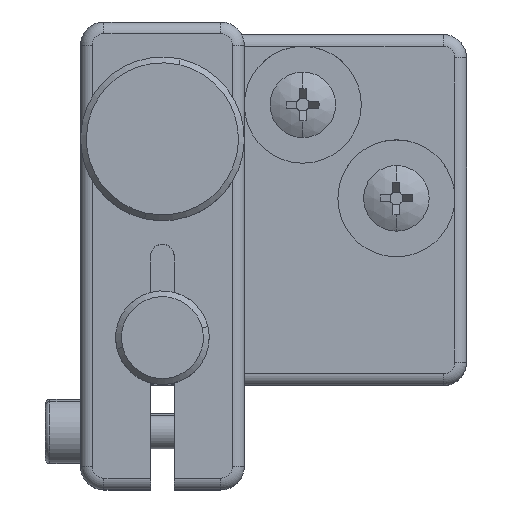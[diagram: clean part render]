
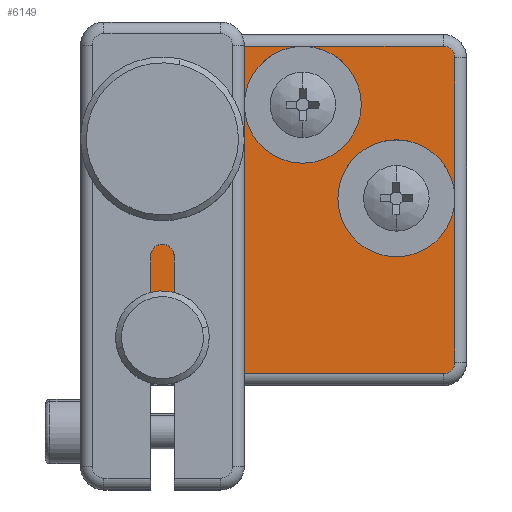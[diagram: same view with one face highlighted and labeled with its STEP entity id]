
A CAD part, top view. The second image highlights one B-rep face of the part: STEP entity #6149.
In plain terms, the highlighted planar face has unit normal (0, 0, 1).
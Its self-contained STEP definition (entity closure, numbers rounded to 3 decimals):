
#11 = AXIS2_PLACEMENT_3D ( 'NONE', #2962, #6996, #5077 ) ;
#76 = CARTESIAN_POINT ( 'NONE',  ( -12.65, -11., 8. ) ) ;
#134 = CARTESIAN_POINT ( 'NONE',  ( 9., 1., 8. ) ) ;
#154 = AXIS2_PLACEMENT_3D ( 'NONE', #6056, #8200, #2603 ) ;
#162 = DIRECTION ( 'NONE',  ( -1., 0., 0. ) ) ;
#251 = CARTESIAN_POINT ( 'NONE',  ( -13., -14., 8. ) ) ;
#280 = AXIS2_PLACEMENT_3D ( 'NONE', #2338, #5007, #8112 ) ;
#339 = CARTESIAN_POINT ( 'NONE',  ( 14., -13., 8. ) ) ;
#519 = CARTESIAN_POINT ( 'NONE',  ( 13., -14., 8. ) ) ;
#543 = AXIS2_PLACEMENT_3D ( 'NONE', #1176, #4559, #5262 ) ;
#546 = EDGE_CURVE ( 'NONE', #5294, #8599, #3349, .T. ) ;
#547 = EDGE_CURVE ( 'NONE', #5498, #4800, #6237, .T. ) ;
#658 = CARTESIAN_POINT ( 'NONE',  ( 1., 9., 8. ) ) ;
#737 = VERTEX_POINT ( 'NONE', #7061 ) ;
#748 = DIRECTION ( 'NONE',  ( 1., 0., 0. ) ) ;
#856 = ORIENTED_EDGE ( 'NONE', *, *, #5304, .T. ) ;
#857 = AXIS2_PLACEMENT_3D ( 'NONE', #2738, #7220, #6018 ) ;
#923 = ORIENTED_EDGE ( 'NONE', *, *, #547, .F. ) ;
#996 = CARTESIAN_POINT ( 'NONE',  ( -4., 9., 8. ) ) ;
#1015 = LINE ( 'NONE', #8382, #1082 ) ;
#1036 = ORIENTED_EDGE ( 'NONE', *, *, #7704, .F. ) ;
#1053 = ORIENTED_EDGE ( 'NONE', *, *, #8220, .T. ) ;
#1082 = VECTOR ( 'NONE', #6226, 1000. ) ;
#1172 = ORIENTED_EDGE ( 'NONE', *, *, #6851, .T. ) ;
#1176 = CARTESIAN_POINT ( 'NONE',  ( 13., 13., 8. ) ) ;
#1201 = CARTESIAN_POINT ( 'NONE',  ( -13., -13., 8. ) ) ;
#1227 = LINE ( 'NONE', #1705, #6841 ) ;
#1466 = CARTESIAN_POINT ( 'NONE',  ( 1., 14., 8. ) ) ;
#1604 = CIRCLE ( 'NONE', #5026, 5. ) ;
#1675 = VERTEX_POINT ( 'NONE', #3652 ) ;
#1677 = VERTEX_POINT ( 'NONE', #1915 ) ;
#1688 = CIRCLE ( 'NONE', #154, 1.65 ) ;
#1705 = CARTESIAN_POINT ( 'NONE',  ( 0., 14., 8. ) ) ;
#1780 = VERTEX_POINT ( 'NONE', #519 ) ;
#1825 = VERTEX_POINT ( 'NONE', #6428 ) ;
#1915 = CARTESIAN_POINT ( 'NONE',  ( 6., 9., 8. ) ) ;
#1919 = VECTOR ( 'NONE', #6157, 1000. ) ;
#1967 = CIRCLE ( 'NONE', #6876, 1. ) ;
#2193 = CIRCLE ( 'NONE', #857, 1.65 ) ;
#2200 = DIRECTION ( 'NONE',  ( 1., 0., 0. ) ) ;
#2338 = CARTESIAN_POINT ( 'NONE',  ( 1., 9., 8. ) ) ;
#2474 = CARTESIAN_POINT ( 'NONE',  ( 14., 1., 8. ) ) ;
#2569 = VERTEX_POINT ( 'NONE', #3186 ) ;
#2573 = CARTESIAN_POINT ( 'NONE',  ( 0., -14., 8. ) ) ;
#2603 = DIRECTION ( 'NONE',  ( 1., 0., 0. ) ) ;
#2677 = AXIS2_PLACEMENT_3D ( 'NONE', #7806, #5643, #4535 ) ;
#2681 = CARTESIAN_POINT ( 'NONE',  ( 1., 9., 8. ) ) ;
#2712 = VERTEX_POINT ( 'NONE', #4735 ) ;
#2725 = FACE_OUTER_BOUND ( 'NONE', #4540, .T. ) ;
#2738 = CARTESIAN_POINT ( 'NONE',  ( -11., -11., 8. ) ) ;
#2962 = CARTESIAN_POINT ( 'NONE',  ( 13., -13., 8. ) ) ;
#3009 = DIRECTION ( 'NONE',  ( 0., 0., 1. ) ) ;
#3031 = DIRECTION ( 'NONE',  ( -1., 0., 0. ) ) ;
#3056 = EDGE_CURVE ( 'NONE', #5294, #1675, #6805, .T. ) ;
#3157 = VERTEX_POINT ( 'NONE', #339 ) ;
#3186 = CARTESIAN_POINT ( 'NONE',  ( -9.35, -11., 8. ) ) ;
#3198 = CARTESIAN_POINT ( 'NONE',  ( 14., 13., 8. ) ) ;
#3276 = DIRECTION ( 'NONE',  ( 0., 0., 1. ) ) ;
#3282 = EDGE_CURVE ( 'NONE', #1780, #3157, #5922, .T. ) ;
#3289 = DIRECTION ( 'NONE',  ( 1., 0., 0. ) ) ;
#3349 = CIRCLE ( 'NONE', #280, 5. ) ;
#3425 = CARTESIAN_POINT ( 'NONE',  ( -14., 0., 8. ) ) ;
#3652 = CARTESIAN_POINT ( 'NONE',  ( -13., 14., 8. ) ) ;
#3848 = ORIENTED_EDGE ( 'NONE', *, *, #6816, .F. ) ;
#3852 = ORIENTED_EDGE ( 'NONE', *, *, #4927, .T. ) ;
#3896 = ORIENTED_EDGE ( 'NONE', *, *, #5437, .F. ) ;
#3927 = VECTOR ( 'NONE', #7286, 1000. ) ;
#3957 = ORIENTED_EDGE ( 'NONE', *, *, #7739, .F. ) ;
#4021 = ORIENTED_EDGE ( 'NONE', *, *, #3056, .T. ) ;
#4089 = EDGE_CURVE ( 'NONE', #1825, #5294, #1227, .T. ) ;
#4189 = AXIS2_PLACEMENT_3D ( 'NONE', #2681, #8515, #3289 ) ;
#4279 = LINE ( 'NONE', #2573, #7289 ) ;
#4425 = ORIENTED_EDGE ( 'NONE', *, *, #4089, .T. ) ;
#4494 = CIRCLE ( 'NONE', #6457, 5. ) ;
#4535 = DIRECTION ( 'NONE',  ( -1., 0., 0. ) ) ;
#4540 = EDGE_LOOP ( 'NONE', ( #6770, #8009, #6947, #1053, #6935, #923, #3852, #1172, #4425, #1036, #3896, #6905, #4021, #856, #6653 ) ) ;
#4542 = EDGE_CURVE ( 'NONE', #6096, #1780, #4279, .T. ) ;
#4559 = DIRECTION ( 'NONE',  ( 0., 0., 1. ) ) ;
#4560 = DIRECTION ( 'NONE',  ( 1., 0., 0. ) ) ;
#4664 = DIRECTION ( 'NONE',  ( 1., 0., 0. ) ) ;
#4735 = CARTESIAN_POINT ( 'NONE',  ( -14., 13., 8. ) ) ;
#4768 = CARTESIAN_POINT ( 'NONE',  ( 4., 1., 8. ) ) ;
#4800 = VERTEX_POINT ( 'NONE', #4768 ) ;
#4851 = CARTESIAN_POINT ( 'NONE',  ( -13., 13., 8. ) ) ;
#4886 = LINE ( 'NONE', #3425, #1919 ) ;
#4927 = EDGE_CURVE ( 'NONE', #5498, #7834, #7470, .T. ) ;
#5007 = DIRECTION ( 'NONE',  ( 0., 0., 1. ) ) ;
#5024 = CARTESIAN_POINT ( 'NONE',  ( 9., 1., 8. ) ) ;
#5026 = AXIS2_PLACEMENT_3D ( 'NONE', #5024, #3276, #2200 ) ;
#5077 = DIRECTION ( 'NONE',  ( -1., 0., 0. ) ) ;
#5244 = EDGE_CURVE ( 'NONE', #2712, #737, #4886, .T. ) ;
#5262 = DIRECTION ( 'NONE',  ( -1., 0., 0. ) ) ;
#5294 = VERTEX_POINT ( 'NONE', #1466 ) ;
#5304 = EDGE_CURVE ( 'NONE', #1675, #2712, #1967, .T. ) ;
#5313 = AXIS2_PLACEMENT_3D ( 'NONE', #1201, #3009, #7055 ) ;
#5437 = EDGE_CURVE ( 'NONE', #8599, #1677, #7805, .T. ) ;
#5447 = AXIS2_PLACEMENT_3D ( 'NONE', #134, #7670, #748 ) ;
#5498 = VERTEX_POINT ( 'NONE', #2474 ) ;
#5609 = DIRECTION ( 'NONE',  ( 0., 0., 1. ) ) ;
#5643 = DIRECTION ( 'NONE',  ( 0., 0., -1. ) ) ;
#5922 = CIRCLE ( 'NONE', #11, 1. ) ;
#6018 = DIRECTION ( 'NONE',  ( 1., 0., 0. ) ) ;
#6056 = CARTESIAN_POINT ( 'NONE',  ( -11., -11., 8. ) ) ;
#6096 = VERTEX_POINT ( 'NONE', #251 ) ;
#6149 = ADVANCED_FACE ( 'NONE', ( #2725, #8406 ), #6948, .F. ) ;
#6157 = DIRECTION ( 'NONE',  ( 0., -1., 0. ) ) ;
#6226 = DIRECTION ( 'NONE',  ( 0., 1., 0. ) ) ;
#6237 = CIRCLE ( 'NONE', #5447, 5. ) ;
#6296 = DIRECTION ( 'NONE',  ( 0., 1., 0. ) ) ;
#6428 = CARTESIAN_POINT ( 'NONE',  ( 13., 14., 8. ) ) ;
#6457 = AXIS2_PLACEMENT_3D ( 'NONE', #658, #8090, #4664 ) ;
#6546 = CARTESIAN_POINT ( 'NONE',  ( 0., 14., 8. ) ) ;
#6653 = ORIENTED_EDGE ( 'NONE', *, *, #5244, .T. ) ;
#6770 = ORIENTED_EDGE ( 'NONE', *, *, #8578, .T. ) ;
#6805 = LINE ( 'NONE', #6546, #3927 ) ;
#6816 = EDGE_CURVE ( 'NONE', #2569, #8415, #2193, .T. ) ;
#6841 = VECTOR ( 'NONE', #3031, 1000. ) ;
#6851 = EDGE_CURVE ( 'NONE', #7834, #1825, #7249, .T. ) ;
#6876 = AXIS2_PLACEMENT_3D ( 'NONE', #4851, #5609, #162 ) ;
#6905 = ORIENTED_EDGE ( 'NONE', *, *, #546, .F. ) ;
#6935 = ORIENTED_EDGE ( 'NONE', *, *, #7692, .F. ) ;
#6947 = ORIENTED_EDGE ( 'NONE', *, *, #3282, .T. ) ;
#6948 = PLANE ( 'NONE',  #2677 ) ;
#6996 = DIRECTION ( 'NONE',  ( 0., 0., 1. ) ) ;
#7055 = DIRECTION ( 'NONE',  ( -1., 0., 0. ) ) ;
#7061 = CARTESIAN_POINT ( 'NONE',  ( -14., -13., 8. ) ) ;
#7192 = CIRCLE ( 'NONE', #5313, 1. ) ;
#7220 = DIRECTION ( 'NONE',  ( 0., 0., 1. ) ) ;
#7249 = CIRCLE ( 'NONE', #543, 1. ) ;
#7286 = DIRECTION ( 'NONE',  ( -1., 0., 0. ) ) ;
#7289 = VECTOR ( 'NONE', #4560, 1000. ) ;
#7470 = LINE ( 'NONE', #7744, #7517 ) ;
#7517 = VECTOR ( 'NONE', #6296, 1000. ) ;
#7670 = DIRECTION ( 'NONE',  ( 0., 0., 1. ) ) ;
#7692 = EDGE_CURVE ( 'NONE', #4800, #5498, #1604, .T. ) ;
#7704 = EDGE_CURVE ( 'NONE', #1677, #5294, #4494, .T. ) ;
#7739 = EDGE_CURVE ( 'NONE', #8415, #2569, #1688, .T. ) ;
#7744 = CARTESIAN_POINT ( 'NONE',  ( 14., 0., 8. ) ) ;
#7805 = CIRCLE ( 'NONE', #4189, 5. ) ;
#7806 = CARTESIAN_POINT ( 'NONE',  ( 0., 0., 8. ) ) ;
#7834 = VERTEX_POINT ( 'NONE', #3198 ) ;
#8009 = ORIENTED_EDGE ( 'NONE', *, *, #4542, .T. ) ;
#8040 = EDGE_LOOP ( 'NONE', ( #3848, #3957 ) ) ;
#8090 = DIRECTION ( 'NONE',  ( 0., 0., 1. ) ) ;
#8112 = DIRECTION ( 'NONE',  ( 1., 0., 0. ) ) ;
#8200 = DIRECTION ( 'NONE',  ( 0., 0., 1. ) ) ;
#8220 = EDGE_CURVE ( 'NONE', #3157, #5498, #1015, .T. ) ;
#8382 = CARTESIAN_POINT ( 'NONE',  ( 14., 0., 8. ) ) ;
#8406 = FACE_BOUND ( 'NONE', #8040, .T. ) ;
#8415 = VERTEX_POINT ( 'NONE', #76 ) ;
#8515 = DIRECTION ( 'NONE',  ( 0., 0., 1. ) ) ;
#8578 = EDGE_CURVE ( 'NONE', #737, #6096, #7192, .T. ) ;
#8599 = VERTEX_POINT ( 'NONE', #996 ) ;
